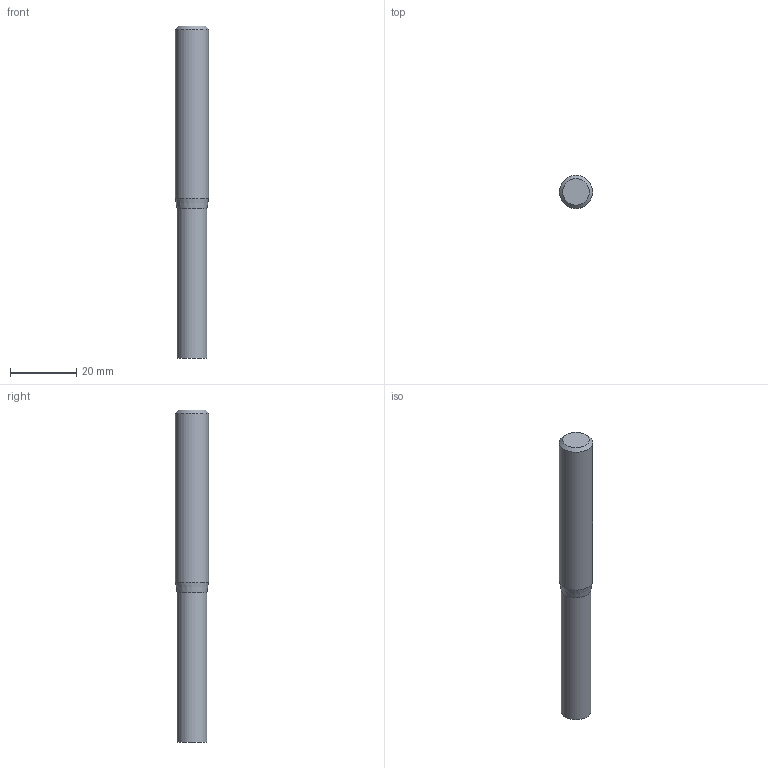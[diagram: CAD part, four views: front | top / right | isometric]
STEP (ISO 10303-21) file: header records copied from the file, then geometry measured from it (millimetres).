
FILE_DESCRIPTION((''),'2;1');
FILE_NAME('C:\Users\nsx150\AppData\Local\Temp\Mastercam 2021\W9Z147XDNF\TEMP.step','2021-04-08T14:50:27',(''),(''),'STEP Write','Mastercam 2021 ... CNC Software, Inc.','');
FILE_SCHEMA(('AUTOMOTIVE_DESIGN'));
Length unit declared in the file: millimetre
Products named in the file (1): None
Bounding box: 10 x 10 x 100 mm (x, y, z)
Volume: 7143.8 mm3; surface area: 3246.1 mm2
Topology: 2 solids, 2 shells, 8 faces, 10 edges, 6 vertices
Faces by surface type: plane 4, cylinder 2, cone 2
Full cylindrical faces by diameter (mm): 9 x1, 10 x1
Entity records: 190 total; most frequent: DIRECTION 32, CARTESIAN_POINT 22, AXIS2_PLACEMENT_3D 16, ORIENTED_EDGE 12, EDGE_LOOP 12, STYLED_ITEM 11, ADVANCED_FACE 8, VERTEX_POINT 6
